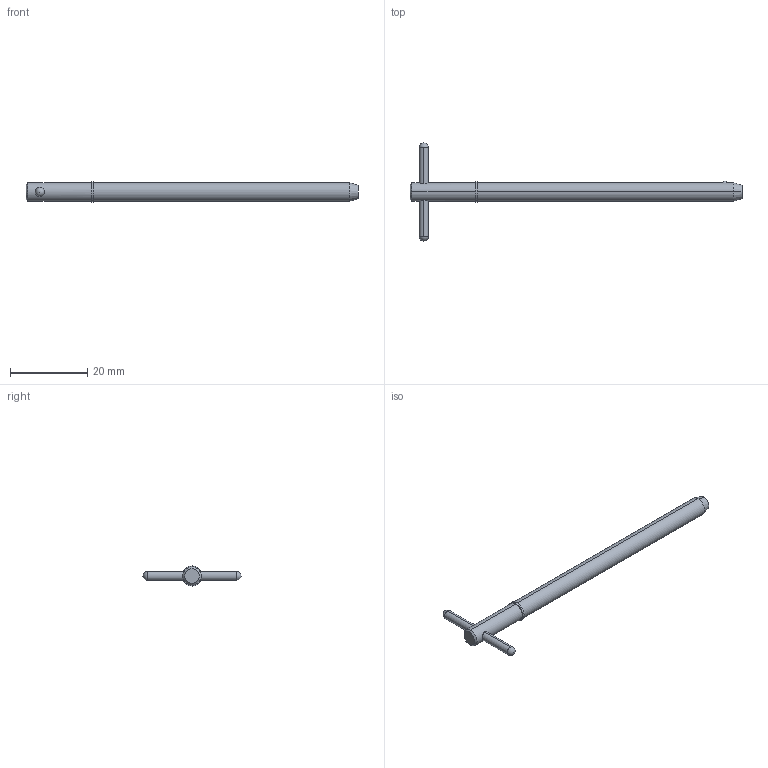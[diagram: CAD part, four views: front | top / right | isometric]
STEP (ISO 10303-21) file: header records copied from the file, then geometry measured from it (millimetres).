
FILE_DESCRIPTION (( 'STEP AP203' ), '1' );
FILE_NAME ('33018.W1825.step', '2024-11-19T17:07:12', ( '' ), ( '' ), 'SwSTEP 2.0', 'SolidWorks 2019', '' );
FILE_SCHEMA (( 'CONFIG_CONTROL_DESIGN' ));
Length unit declared in the file: millimetre
Products named in the file (3): Part1_33018.W1825; Part2_33018.W1825; 33018.W1825
Assembly tree (2 placements, depth 2):
  33018.W1825
    Part1_33018.W1825
    Part2_33018.W1825
Bounding box: 86.03 x 25.4 x 5.24 mm (x, y, z)
Volume: 1611.4 mm3; surface area: 1529.5 mm2
Topology: 2 solids, 2 shells, 22 faces, 47 edges, 30 vertices
Faces by surface type: cylinder 10, sphere 4, cone 4, plane 4
Entity records: 961 total; most frequent: CARTESIAN_POINT 204, DIRECTION 110, ORIENTED_EDGE 82, AXIS2_PLACEMENT_3D 48, EDGE_CURVE 41, EDGE_LOOP 27, PERSON_AND_ORGANIZATION 26, VERTEX_POINT 26
